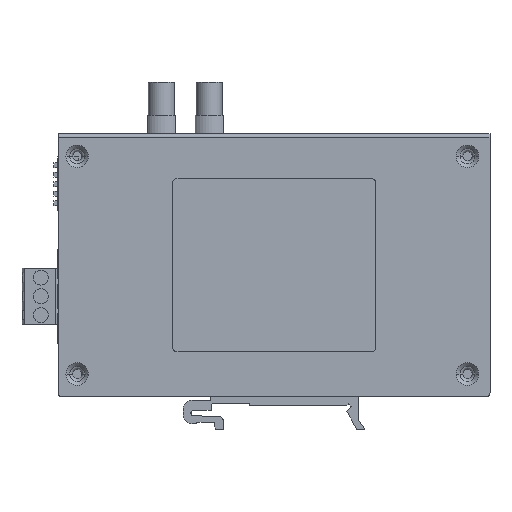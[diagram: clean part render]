
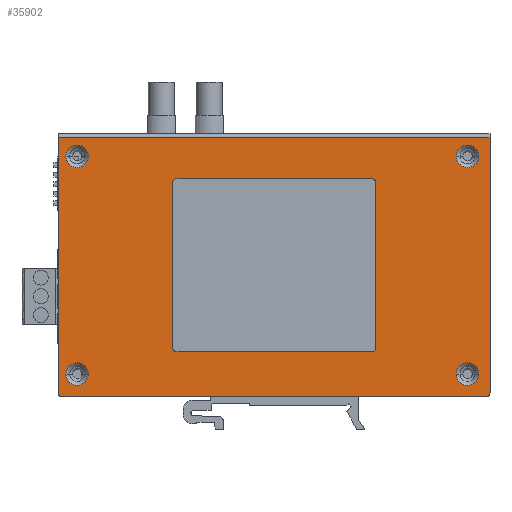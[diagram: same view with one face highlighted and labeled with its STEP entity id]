
A CAD part, left-side view. The second image highlights one B-rep face of the part: STEP entity #35902.
In plain terms, the highlighted planar face has unit normal (-1, 0, 0).
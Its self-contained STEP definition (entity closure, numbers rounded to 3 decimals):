
#34231=DIRECTION('',(0.,-1.,0.));
#34232=VECTOR('',#34231,113.);
#34233=CARTESIAN_POINT('',(-29.15,56.,-34.9));
#34234=LINE('',#34233,#34232);
#34235=CARTESIAN_POINT('',(-29.15,56.,-33.9));
#34236=DIRECTION('',(-1.,0.,0.));
#34237=DIRECTION('',(0.,1.,0.));
#34238=AXIS2_PLACEMENT_3D('',#34235,#34236,#34237);
#34240=DIRECTION('',(0.,0.,-1.));
#34241=VECTOR('',#34240,68.);
#34242=CARTESIAN_POINT('',(-29.15,57.,34.1));
#34243=LINE('',#34242,#34241);
#34244=DIRECTION('',(0.,0.,1.));
#34245=VECTOR('',#34244,68.);
#34246=CARTESIAN_POINT('',(-29.15,-58.,-33.9));
#34247=LINE('',#34246,#34245);
#34248=CARTESIAN_POINT('',(-29.15,-57.,-33.9));
#34249=DIRECTION('',(-1.,0.,0.));
#34250=DIRECTION('',(0.,0.,-1.));
#34251=AXIS2_PLACEMENT_3D('',#34248,#34249,#34250);
#34253=CARTESIAN_POINT('',(-29.15,52.,-28.9));
#34254=DIRECTION('',(1.,0.,0.));
#34255=DIRECTION('',(0.,1.,0.));
#34256=AXIS2_PLACEMENT_3D('',#34253,#34254,#34255);
#34258=CARTESIAN_POINT('',(-29.15,52.,-28.9));
#34259=DIRECTION('',(1.,0.,0.));
#34260=DIRECTION('',(0.,-1.,0.));
#34261=AXIS2_PLACEMENT_3D('',#34258,#34259,#34260);
#34263=CARTESIAN_POINT('',(-29.15,52.,29.1));
#34264=DIRECTION('',(1.,0.,0.));
#34265=DIRECTION('',(0.,1.,0.));
#34266=AXIS2_PLACEMENT_3D('',#34263,#34264,#34265);
#34268=CARTESIAN_POINT('',(-29.15,52.,29.1));
#34269=DIRECTION('',(1.,0.,0.));
#34270=DIRECTION('',(0.,-1.,0.));
#34271=AXIS2_PLACEMENT_3D('',#34268,#34269,#34270);
#34273=CARTESIAN_POINT('',(-29.15,-52.,29.1));
#34274=DIRECTION('',(1.,0.,0.));
#34275=DIRECTION('',(0.,1.,0.));
#34276=AXIS2_PLACEMENT_3D('',#34273,#34274,#34275);
#34278=CARTESIAN_POINT('',(-29.15,-52.,29.1));
#34279=DIRECTION('',(1.,0.,0.));
#34280=DIRECTION('',(0.,-1.,0.));
#34281=AXIS2_PLACEMENT_3D('',#34278,#34279,#34280);
#34283=CARTESIAN_POINT('',(-29.15,-52.,-28.9));
#34284=DIRECTION('',(1.,0.,0.));
#34285=DIRECTION('',(0.,1.,0.));
#34286=AXIS2_PLACEMENT_3D('',#34283,#34284,#34285);
#34288=CARTESIAN_POINT('',(-29.15,-52.,-28.9));
#34289=DIRECTION('',(1.,0.,0.));
#34290=DIRECTION('',(0.,-1.,0.));
#34291=AXIS2_PLACEMENT_3D('',#34288,#34289,#34290);
#34293=CARTESIAN_POINT('',(-29.15,-26.4,22.));
#34294=DIRECTION('',(1.,0.,0.));
#34295=DIRECTION('',(0.,0.,1.));
#34296=AXIS2_PLACEMENT_3D('',#34293,#34294,#34295);
#34298=DIRECTION('',(0.,-1.,0.));
#34299=VECTOR('',#34298,51.8);
#34300=CARTESIAN_POINT('',(-29.15,25.4,23.2));
#34301=LINE('',#34300,#34299);
#34302=CARTESIAN_POINT('',(-29.15,25.4,22.));
#34303=DIRECTION('',(1.,0.,0.));
#34304=DIRECTION('',(0.,1.,0.));
#34305=AXIS2_PLACEMENT_3D('',#34302,#34303,#34304);
#34307=DIRECTION('',(0.,0.,1.));
#34308=VECTOR('',#34307,43.8);
#34309=CARTESIAN_POINT('',(-29.15,26.6,-21.8));
#34310=LINE('',#34309,#34308);
#34311=CARTESIAN_POINT('',(-29.15,25.4,-21.8));
#34312=DIRECTION('',(1.,0.,0.));
#34313=DIRECTION('',(0.,0.,-1.));
#34314=AXIS2_PLACEMENT_3D('',#34311,#34312,#34313);
#34316=DIRECTION('',(0.,1.,0.));
#34317=VECTOR('',#34316,51.8);
#34318=CARTESIAN_POINT('',(-29.15,-26.4,-23.));
#34319=LINE('',#34318,#34317);
#34320=CARTESIAN_POINT('',(-29.15,-26.4,-21.8));
#34321=DIRECTION('',(1.,0.,0.));
#34322=DIRECTION('',(0.,-1.,0.));
#34323=AXIS2_PLACEMENT_3D('',#34320,#34321,#34322);
#34325=DIRECTION('',(0.,0.,-1.));
#34326=VECTOR('',#34325,43.8);
#34327=CARTESIAN_POINT('',(-29.15,-27.6,22.));
#34328=LINE('',#34327,#34326);
#34345=DIRECTION('',(0.,-1.,0.));
#34346=VECTOR('',#34345,115.);
#34347=CARTESIAN_POINT('',(-29.15,57.,34.1));
#34348=LINE('',#34347,#34346);
#34995=CARTESIAN_POINT('',(-29.15,-58.,34.1));
#34996=VERTEX_POINT('',#34995);
#35005=CARTESIAN_POINT('',(-29.15,56.,-34.9));
#35006=CARTESIAN_POINT('',(-29.15,-57.,-34.9));
#35007=VERTEX_POINT('',#35005);
#35008=VERTEX_POINT('',#35006);
#35009=CARTESIAN_POINT('',(-29.15,57.,34.1));
#35010=VERTEX_POINT('',#35009);
#35021=CARTESIAN_POINT('',(-29.15,55.,-28.9));
#35022=CARTESIAN_POINT('',(-29.15,49.,-28.9));
#35023=VERTEX_POINT('',#35021);
#35024=VERTEX_POINT('',#35022);
#35025=CARTESIAN_POINT('',(-29.15,-58.,-33.9));
#35026=VERTEX_POINT('',#35025);
#35027=CARTESIAN_POINT('',(-29.15,57.,-33.9));
#35028=VERTEX_POINT('',#35027);
#35045=CARTESIAN_POINT('',(-29.15,55.,29.1));
#35046=CARTESIAN_POINT('',(-29.15,49.,29.1));
#35047=VERTEX_POINT('',#35045);
#35048=VERTEX_POINT('',#35046);
#35067=CARTESIAN_POINT('',(-29.15,-49.,29.1));
#35068=CARTESIAN_POINT('',(-29.15,-55.,29.1));
#35069=VERTEX_POINT('',#35067);
#35070=VERTEX_POINT('',#35068);
#35083=CARTESIAN_POINT('',(-29.15,-49.,-28.9));
#35084=CARTESIAN_POINT('',(-29.15,-55.,-28.9));
#35085=VERTEX_POINT('',#35083);
#35086=VERTEX_POINT('',#35084);
#35105=CARTESIAN_POINT('',(-29.15,-26.4,23.2));
#35106=CARTESIAN_POINT('',(-29.15,-27.6,22.));
#35107=VERTEX_POINT('',#35105);
#35108=VERTEX_POINT('',#35106);
#35127=CARTESIAN_POINT('',(-29.15,-27.6,-21.8));
#35128=VERTEX_POINT('',#35127);
#35129=CARTESIAN_POINT('',(-29.15,25.4,23.2));
#35130=VERTEX_POINT('',#35129);
#35155=CARTESIAN_POINT('',(-29.15,-26.4,-23.));
#35156=VERTEX_POINT('',#35155);
#35157=CARTESIAN_POINT('',(-29.15,26.6,22.));
#35158=VERTEX_POINT('',#35157);
#35183=CARTESIAN_POINT('',(-29.15,25.4,-23.));
#35184=VERTEX_POINT('',#35183);
#35187=CARTESIAN_POINT('',(-29.15,26.6,-21.8));
#35188=VERTEX_POINT('',#35187);
#35843=CARTESIAN_POINT('',(-29.15,-58.,34.1));
#35844=DIRECTION('',(1.,0.,0.));
#35845=DIRECTION('',(0.,-1.,0.));
#35846=AXIS2_PLACEMENT_3D('',#35843,#35844,#35845);
#35847=PLANE('',#35846);
#35849=ORIENTED_EDGE('',*,*,#35848,.F.);
#35851=ORIENTED_EDGE('',*,*,#35850,.F.);
#35852=ORIENTED_EDGE('',*,*,#35834,.F.);
#35854=ORIENTED_EDGE('',*,*,#35853,.T.);
#35855=ORIENTED_EDGE('',*,*,#35410,.F.);
#35857=ORIENTED_EDGE('',*,*,#35856,.F.);
#35858=EDGE_LOOP('',(#35849,#35851,#35852,#35854,#35855,#35857));
#35859=FACE_OUTER_BOUND('',#35858,.F.);
#35861=ORIENTED_EDGE('',*,*,#35860,.F.);
#35863=ORIENTED_EDGE('',*,*,#35862,.F.);
#35864=EDGE_LOOP('',(#35861,#35863));
#35865=FACE_BOUND('',#35864,.F.);
#35867=ORIENTED_EDGE('',*,*,#35866,.F.);
#35869=ORIENTED_EDGE('',*,*,#35868,.F.);
#35870=EDGE_LOOP('',(#35867,#35869));
#35871=FACE_BOUND('',#35870,.F.);
#35873=ORIENTED_EDGE('',*,*,#35872,.F.);
#35875=ORIENTED_EDGE('',*,*,#35874,.F.);
#35876=EDGE_LOOP('',(#35873,#35875));
#35877=FACE_BOUND('',#35876,.F.);
#35879=ORIENTED_EDGE('',*,*,#35878,.F.);
#35881=ORIENTED_EDGE('',*,*,#35880,.F.);
#35882=EDGE_LOOP('',(#35879,#35881));
#35883=FACE_BOUND('',#35882,.F.);
#35885=ORIENTED_EDGE('',*,*,#35884,.F.);
#35887=ORIENTED_EDGE('',*,*,#35886,.F.);
#35889=ORIENTED_EDGE('',*,*,#35888,.F.);
#35891=ORIENTED_EDGE('',*,*,#35890,.F.);
#35893=ORIENTED_EDGE('',*,*,#35892,.F.);
#35895=ORIENTED_EDGE('',*,*,#35894,.F.);
#35897=ORIENTED_EDGE('',*,*,#35896,.F.);
#35899=ORIENTED_EDGE('',*,*,#35898,.F.);
#35900=EDGE_LOOP('',(#35885,#35887,#35889,#35891,#35893,#35895,#35897,#35899));
#35901=FACE_BOUND('',#35900,.F.);
#35902=ADVANCED_FACE('',(#35859,#35865,#35871,#35877,#35883,#35901),#35847,.F.);
#34239=CIRCLE('',#34238,1.);
#34252=CIRCLE('',#34251,1.);
#34257=CIRCLE('',#34256,3.);
#34262=CIRCLE('',#34261,3.);
#34267=CIRCLE('',#34266,3.);
#34272=CIRCLE('',#34271,3.);
#34277=CIRCLE('',#34276,3.);
#34282=CIRCLE('',#34281,3.);
#34287=CIRCLE('',#34286,3.);
#34292=CIRCLE('',#34291,3.);
#34297=CIRCLE('',#34296,1.2);
#34306=CIRCLE('',#34305,1.2);
#34315=CIRCLE('',#34314,1.2);
#34324=CIRCLE('',#34323,1.2);
#35410=EDGE_CURVE('',#35026,#34996,#34247,.T.);
#35834=EDGE_CURVE('',#35010,#35028,#34243,.T.);
#35848=EDGE_CURVE('',#35007,#35008,#34234,.T.);
#35850=EDGE_CURVE('',#35028,#35007,#34239,.T.);
#35853=EDGE_CURVE('',#35010,#34996,#34348,.T.);
#35856=EDGE_CURVE('',#35008,#35026,#34252,.T.);
#35860=EDGE_CURVE('',#35023,#35024,#34257,.T.);
#35862=EDGE_CURVE('',#35024,#35023,#34262,.T.);
#35866=EDGE_CURVE('',#35047,#35048,#34267,.T.);
#35868=EDGE_CURVE('',#35048,#35047,#34272,.T.);
#35872=EDGE_CURVE('',#35069,#35070,#34277,.T.);
#35874=EDGE_CURVE('',#35070,#35069,#34282,.T.);
#35878=EDGE_CURVE('',#35085,#35086,#34287,.T.);
#35880=EDGE_CURVE('',#35086,#35085,#34292,.T.);
#35884=EDGE_CURVE('',#35107,#35108,#34297,.T.);
#35886=EDGE_CURVE('',#35130,#35107,#34301,.T.);
#35888=EDGE_CURVE('',#35158,#35130,#34306,.T.);
#35890=EDGE_CURVE('',#35188,#35158,#34310,.T.);
#35892=EDGE_CURVE('',#35184,#35188,#34315,.T.);
#35894=EDGE_CURVE('',#35156,#35184,#34319,.T.);
#35896=EDGE_CURVE('',#35128,#35156,#34324,.T.);
#35898=EDGE_CURVE('',#35108,#35128,#34328,.T.);
